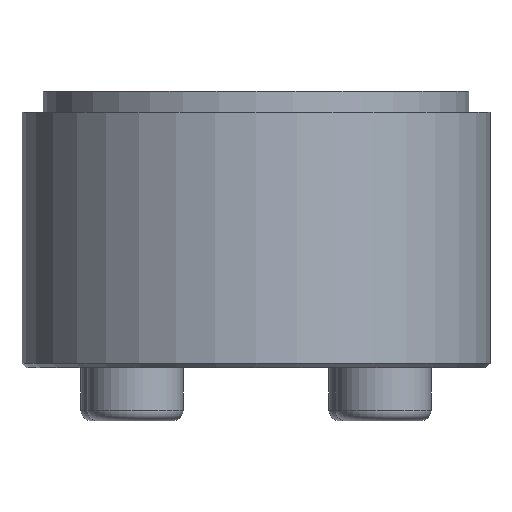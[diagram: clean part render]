
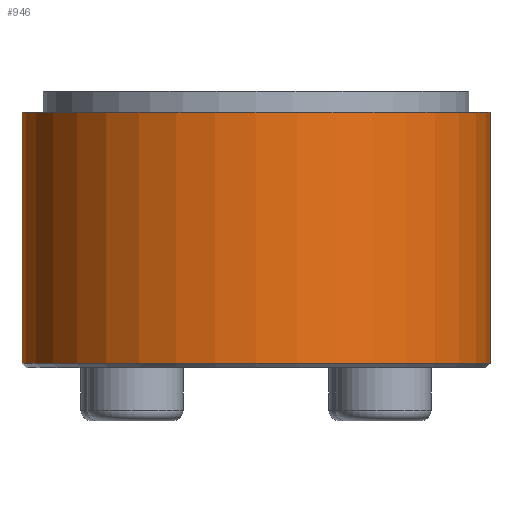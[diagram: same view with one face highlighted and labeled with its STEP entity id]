
A CAD part, front view. The second image highlights one B-rep face of the part: STEP entity #946.
In plain terms, the highlighted cylindrical face has radius 11 mm (diameter 22 mm), a partial arc.
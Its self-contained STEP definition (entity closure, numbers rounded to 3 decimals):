
#51 = AXIS2_PLACEMENT_3D ( 'NONE', #866, #444, #1680 ) ;
#53 = CARTESIAN_POINT ( 'NONE',  ( 0., 0., 5.5 ) ) ;
#113 = EDGE_CURVE ( 'NONE', #1058, #1619, #500, .T. ) ;
#119 = EDGE_CURVE ( 'NONE', #1058, #170, #479, .T. ) ;
#170 = VERTEX_POINT ( 'NONE', #1041 ) ;
#194 = ORIENTED_EDGE ( 'NONE', *, *, #970, .T. ) ;
#196 = ORIENTED_EDGE ( 'NONE', *, *, #923, .T. ) ;
#306 = CARTESIAN_POINT ( 'NONE',  ( 0., 0., 0. ) ) ;
#371 = ORIENTED_EDGE ( 'NONE', *, *, #119, .T. ) ;
#387 = AXIS2_PLACEMENT_3D ( 'NONE', #306, #601, #1543 ) ;
#401 = VECTOR ( 'NONE', #756, 1000. ) ;
#444 = DIRECTION ( 'NONE',  ( 0., 0., 1. ) ) ;
#479 = CIRCLE ( 'NONE', #496, 11. ) ;
#496 = AXIS2_PLACEMENT_3D ( 'NONE', #53, #755, #1154 ) ;
#500 = LINE ( 'NONE', #1431, #1776 ) ;
#601 = DIRECTION ( 'NONE',  ( 0., 0., -1. ) ) ;
#609 = CARTESIAN_POINT ( 'NONE',  ( -11., 0., 0. ) ) ;
#755 = DIRECTION ( 'NONE',  ( 0., 0., -1. ) ) ;
#756 = DIRECTION ( 'NONE',  ( 0., 0., -1. ) ) ;
#757 = CYLINDRICAL_SURFACE ( 'NONE', #387, 11. ) ;
#774 = LINE ( 'NONE', #609, #401 ) ;
#837 = ORIENTED_EDGE ( 'NONE', *, *, #113, .F. ) ;
#851 = CARTESIAN_POINT ( 'NONE',  ( 11., 0., -6.3 ) ) ;
#866 = CARTESIAN_POINT ( 'NONE',  ( 0., 0., -6.3 ) ) ;
#923 = EDGE_CURVE ( 'NONE', #1725, #1619, #1186, .T. ) ;
#946 = ADVANCED_FACE ( 'NONE', ( #1128 ), #757, .T. ) ;
#970 = EDGE_CURVE ( 'NONE', #170, #1725, #774, .T. ) ;
#1041 = CARTESIAN_POINT ( 'NONE',  ( -11., 0., 5.5 ) ) ;
#1058 = VERTEX_POINT ( 'NONE', #1739 ) ;
#1128 = FACE_OUTER_BOUND ( 'NONE', #1478, .T. ) ;
#1154 = DIRECTION ( 'NONE',  ( 1., 0., 0. ) ) ;
#1186 = CIRCLE ( 'NONE', #51, 11. ) ;
#1271 = DIRECTION ( 'NONE',  ( 0., 0., -1. ) ) ;
#1431 = CARTESIAN_POINT ( 'NONE',  ( 11., 0., 0. ) ) ;
#1478 = EDGE_LOOP ( 'NONE', ( #837, #371, #194, #196 ) ) ;
#1543 = DIRECTION ( 'NONE',  ( -1., 0., 0. ) ) ;
#1572 = CARTESIAN_POINT ( 'NONE',  ( -11., 0., -6.3 ) ) ;
#1619 = VERTEX_POINT ( 'NONE', #851 ) ;
#1680 = DIRECTION ( 'NONE',  ( -1., 0., 0. ) ) ;
#1725 = VERTEX_POINT ( 'NONE', #1572 ) ;
#1739 = CARTESIAN_POINT ( 'NONE',  ( 11., 0., 5.5 ) ) ;
#1776 = VECTOR ( 'NONE', #1271, 1000. ) ;
